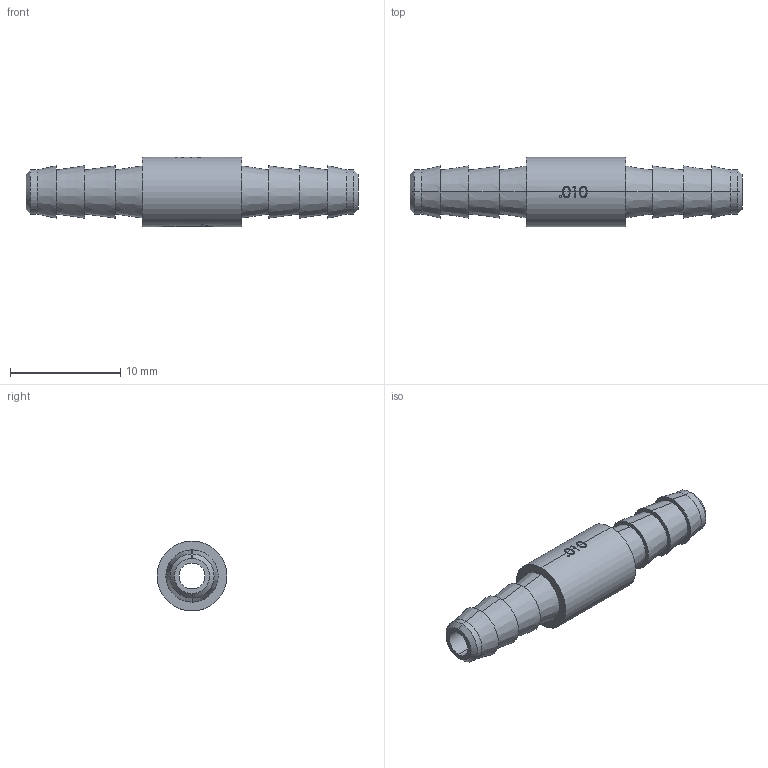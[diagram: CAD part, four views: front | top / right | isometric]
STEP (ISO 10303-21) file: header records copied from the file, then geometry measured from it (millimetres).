
FILE_DESCRIPTION(/* description */ ('SolidWorks IGES file using analytic representation for surfaces '),/* implementation_level */ '2;1');
FILE_NAME(/* name */ 'K:\Normteile INVENTOR\Air-Logic\Orifice restrictors\F-2815-101-B85.IGS.ipt.stp',/* time_stamp */ '2020-05-27T10:46:06+02:00',/* author */ ('cad'),/* organization */ (''),/* preprocessor_version */ 'ST-DEVELOPER v18',/* originating_system */ 'Autodesk Inventor 2020',/* authorisation */ '');
FILE_SCHEMA (('AUTOMOTIVE_DESIGN { 1 0 10303 214 3 1 1 }'));
Length unit declared in the file: millimetre
Products named in the file (1): F-2815-101-B85.IGS
Bounding box: 30.15 x 6.35 x 6.35 mm (x, y, z)
Surface area: 764.9 mm2 (no closed solid volume)
Topology: 0 solids, 85 shells, 85 faces, 401 edges, 401 vertices
Faces by surface type: bspline 25, cylinder 20, cone 20, plane 20
Entity records: 7482 total; most frequent: CARTESIAN_POINT 4312, DIRECTION 532, VERTEX_POINT 401, EDGE_CURVE 401, ORIENTED_EDGE 401, LINE 200, VECTOR 200, AXIS2_PLACEMENT_3D 166
